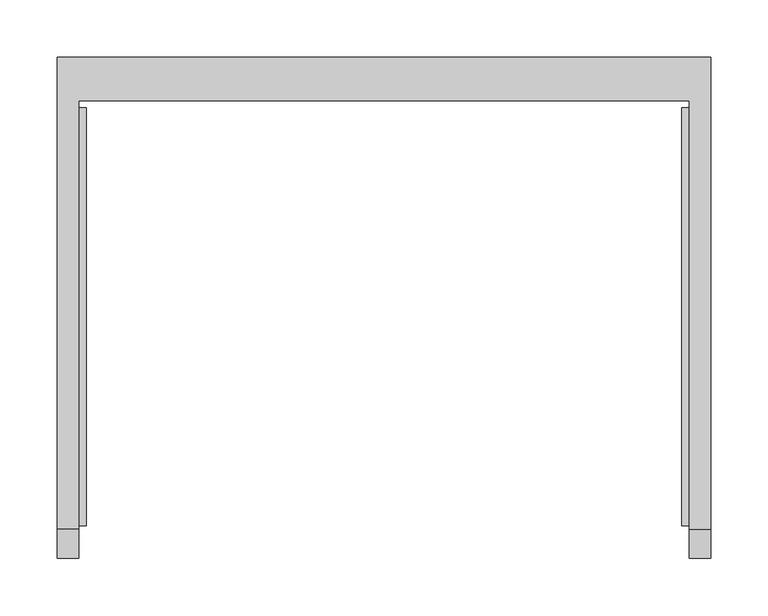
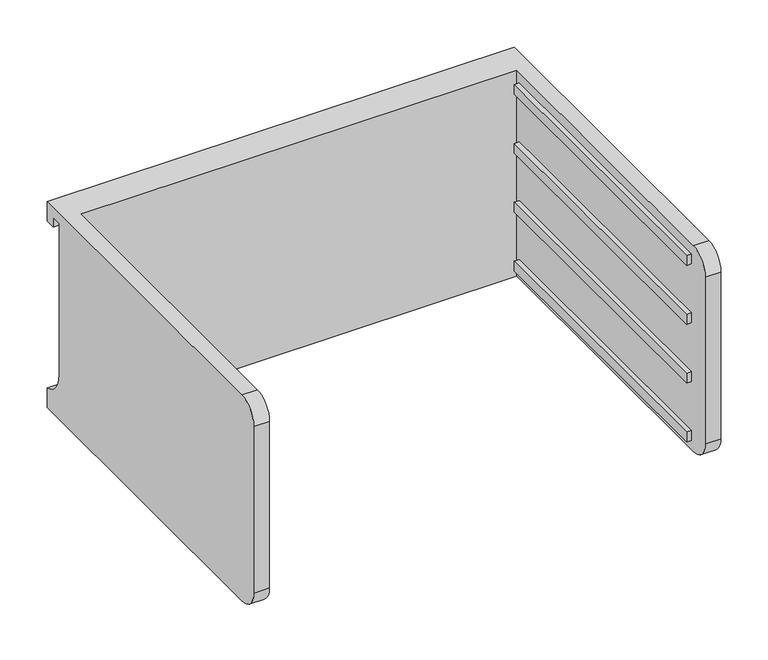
"""IFC4 building model written with IfcOpenShell, lengths in millimetres: furniture geometry."""

from ifc_helpers import new_model, si_unit, frame, origin, place, context, project, spatial, polyline, circle_curve, outline, extrude, source, transform, mapped, element, save
from ifc_brep_helpers import plane_surface, cylinder_surface, revolved_surface, advanced_brep


def furniture_56be9a9d(model_context):
    return source(origin(), model_context, "Body", "SolidModel", [
        advanced_brep(
        [(-171.7622951, -331.6523397, 814.4002), (-171.7622951, -357.0523397, 789.0002), (-171.7622951, -357.0523397, 573.1002), (-171.7622951, -331.6523397, 547.7002), (-171.7622951, 43.0421197, 547.7002), (-171.7622951, 43.0421197, 814.4002), (-190.8122951, -331.6523397, 547.7002), (-190.8122951, -357.0523397, 573.1002), (-190.8122951, -357.0523397, 789.0002), (-190.8122951, -331.6523397, 814.4002), (-190.8122951, 81.0976603, 814.4002), (-190.8122951, 81.0976603, 789.0002), (-190.8122951, 68.4421197, 789.0002), (-190.8122951, 68.4421197, 801.7002), (-190.8122951, 55.7421197, 801.7002), (-190.8122951, 55.7421197, 605.64522), (-190.8122951, 81.0976603, 573.1002), (-190.8122951, 81.0976603, 547.7002), (380.6877049, 81.0976603, 547.7002), (380.6877049, -331.6523397, 547.7002), (361.6377049, -331.6523397, 547.7002), (361.6377049, 43.0421197, 547.7002), (361.6377049, 43.0421197, 814.4002), (361.6377049, -331.6523397, 814.4002), (380.6877049, -331.6523397, 814.4002), (380.6877049, 81.0976603, 814.4002), (380.6877049, 81.0976603, 573.1002), (380.6877049, 55.7421197, 605.64522), (380.6877049, 55.7421197, 801.7002), (380.6877049, 68.4421197, 801.7002), (380.6877049, 68.4421197, 789.0002), (380.6877049, 81.0976603, 789.0002), (380.6877049, -357.0523397, 789.0002), (380.6877049, -357.0523397, 573.1002), (361.6377049, -357.0523397, 573.1002), (361.6377049, -357.0523397, 789.0002)],
        [
            (0, 1, circle_curve(frame((-171.7622951, -331.6523397, 789.0002), z_axis=(1.0, 0.0, 0.0), x_axis=(0.0, 0.0, 1.0)), 25.4)),
            (1, 2),
            (2, 3, circle_curve(frame((-171.7622951, -331.6523397, 573.1002), z_axis=(1.0, 0.0, 0.0), x_axis=(0.0, 0.0, 1.0)), 25.4)),
            (3, 4),
            (4, 5),
            (5, 0),
            (6, 7, circle_curve(frame((-190.8122951, -331.6523397, 573.1002), z_axis=(-1.0, 0.0, 0.0), x_axis=(0.0, 0.0, 1.0)), 25.4)),
            (7, 8),
            (8, 9, circle_curve(frame((-190.8122951, -331.6523397, 789.0002), z_axis=(-1.0, 0.0, 0.0), x_axis=(0.0, 0.0, 1.0)), 25.4)),
            (9, 10),
            (10, 11),
            (11, 12),
            (12, 13),
            (13, 14),
            (14, 15),
            (15, 16, circle_curve(frame((-190.8122951, 89.3064162, 605.64522), z_axis=(1.0, 0.0, 0.0), x_axis=(0.0, 0.0, 1.0)), 33.5642965)),
            (16, 17),
            (17, 6),
            (0, 9),
            (8, 1),
            (7, 2),
            (6, 3),
            (17, 18),
            (18, 19),
            (19, 20),
            (20, 21),
            (21, 4),
            (5, 22),
            (22, 23),
            (23, 24),
            (24, 25),
            (25, 10),
            (18, 26),
            (26, 27, circle_curve(frame((380.6877049, 89.3064162, 605.64522), z_axis=(-1.0, 0.0, 0.0), x_axis=(0.0, 0.0, 1.0)), 33.5642965)),
            (27, 28),
            (28, 29),
            (29, 30),
            (30, 31),
            (31, 25),
            (24, 32, circle_curve(frame((380.6877049, -331.6523397, 789.0002), z_axis=(1.0, 0.0, 0.0), x_axis=(0.0, 0.0, 1.0)), 25.4)),
            (32, 33),
            (33, 19, circle_curve(frame((380.6877049, -331.6523397, 573.1002), z_axis=(1.0, 0.0, 0.0), x_axis=(0.0, 0.0, 1.0)), 25.4)),
            (16, 26),
            (15, 27),
            (14, 28),
            (13, 29),
            (12, 30),
            (11, 31),
            (21, 22),
            (20, 34, circle_curve(frame((361.6377049, -331.6523397, 573.1002), z_axis=(-1.0, 0.0, 0.0), x_axis=(0.0, 0.0, 1.0)), 25.4)),
            (34, 35),
            (35, 23, circle_curve(frame((361.6377049, -331.6523397, 789.0002), z_axis=(-1.0, 0.0, 0.0), x_axis=(0.0, 0.0, 1.0)), 25.4)),
            (35, 32),
            (34, 33),
        ],
        [
            plane_surface(frame((-171.7622951, -331.6523397, 814.4002), z_axis=(1.0, 0.0, 0.0), x_axis=(0.0, -1.0, 0.0))),
            plane_surface(frame((-190.8122951, -331.6523397, 814.4002), z_axis=(-1.0, 0.0, 0.0), x_axis=(0.0, 1.0, 0.0))),
            cylinder_surface(frame((-190.8122951, -331.6523397, 789.0002), z_axis=(1.0, 0.0, 0.0), x_axis=(0.0, 0.0, 1.0)), 25.4),
            plane_surface(frame((-171.7622951, -357.0523397, 789.0002), z_axis=(0.0, -1.0, 0.0), x_axis=(-1.0, 0.0, 0.0))),
            cylinder_surface(frame((-190.8122951, -331.6523397, 573.1002), z_axis=(1.0, 0.0, 0.0), x_axis=(0.0, 0.0, 1.0)), 25.4),
            plane_surface(frame((-171.7622951, -331.6523397, 547.7002), z_axis=(0.0, 0.0, -1.0), x_axis=(-1.0, 0.0, 0.0))),
            plane_surface(frame((-171.7622951, 43.0421197, 814.4002), z_axis=(0.0, 0.0, 1.0), x_axis=(-1.0, 0.0, 0.0))),
            plane_surface(frame((380.6877049, 81.0976603, 573.1002), z_axis=(1.0, 0.0, 0.0), x_axis=(0.0, 0.0, 1.0))),
            plane_surface(frame((380.6877049, 81.0976603, 547.7002), z_axis=(0.0, 1.0, 0.0), x_axis=(-1.0, 0.0, 0.0))),
            revolved_surface(polyline([(-190.8122951, 89.3064162, 639.2095165), (380.68770489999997, 89.3064162, 639.2095165)]), (-190.8122951, 89.3064162, 605.64522), (-1.0, 0.0, 0.0)),
            plane_surface(frame((380.6877049, 55.7421197, 605.64522), z_axis=(0.0, 1.0, 0.0), x_axis=(-1.0, 0.0, 0.0))),
            plane_surface(frame((380.6877049, 55.7421197, 801.7002), z_axis=(0.0, 0.0, -1.0), x_axis=(-1.0, 0.0, 0.0))),
            plane_surface(frame((380.6877049, 68.4421197, 801.7002), z_axis=(0.0, -1.0, 0.0), x_axis=(-1.0, 0.0, 0.0))),
            plane_surface(frame((380.6877049, 68.4421197, 789.0002), z_axis=(0.0, 0.0, -1.0), x_axis=(-1.0, 0.0, 0.0))),
            plane_surface(frame((380.6877049, 81.0976603, 789.0002), z_axis=(0.0, 1.0, 0.0), x_axis=(-1.0, 0.0, 0.0))),
            plane_surface(frame((380.6877049, 43.0421197, 814.4002), z_axis=(0.0, -1.0, 0.0), x_axis=(-1.0, 0.0, 0.0))),
            plane_surface(frame((361.6377049, -331.6523397, 814.4002), z_axis=(-1.0, 0.0, 0.0), x_axis=(0.0, 1.0, 0.0))),
            cylinder_surface(frame((361.6377049, -331.6523397, 789.0002), z_axis=(1.0, 0.0, 0.0), x_axis=(0.0, 0.0, 1.0)), 25.4),
            plane_surface(frame((380.6877049, -357.0523397, 789.0002), z_axis=(0.0, -1.0, 0.0), x_axis=(-1.0, 0.0, 0.0))),
            cylinder_surface(frame((361.6377049, -331.6523397, 573.1002), z_axis=(1.0, 0.0, 0.0), x_axis=(0.0, 0.0, 1.0)), 25.4),
        ],
        [
            (0, [[1, 2, 3, 4, 5, 6]]),
            (1, [[7, 8, 9, 10, 11, 12, 13, 14, 15, 16, 17, 18]]),
            (2, [[-1, 19, -9, 20]]),
            (3, [[-2, -20, -8, 21]]),
            (4, [[-3, -21, -7, 22]]),
            (5, [[-4, -22, -18, 23, 24, 25, 26, 27]]),
            (6, [[-6, 28, 29, 30, 31, 32, -10, -19]]),
            (7, [[-24, 33, 34, 35, 36, 37, 38, 39, -31, 40, 41, 42]]),
            (8, [[-33, -23, -17, 43]]),
            (9, [[-34, -43, -16, 44]]),
            (10, [[-35, -44, -15, 45]]),
            (11, [[-36, -45, -14, 46]]),
            (12, [[-37, -46, -13, 47]]),
            (13, [[-38, -47, -12, 48]]),
            (14, [[-39, -48, -11, -32]]),
            (15, [[-5, -27, 49, -28]]),
            (16, [[-29, -49, -26, 50, 51, 52]]),
            (17, [[-40, -30, -52, 53]]),
            (18, [[-41, -53, -51, 54]]),
            (19, [[-42, -54, -50, -25]]),
        ],
    ),
        extrude(outline(polyline([(355.2877049, -328.4773397), (355.2877049, 36.6921197), (361.6377049, 36.6921197), (361.6377049, -328.4773397), (355.2877049, -328.4773397)])), frame((0.0, 0.0, 636.6002), z_axis=(0.0, 0.0, 1.0), x_axis=(1.0, 0.0, 0.0)), (0.0, 0.0, 1.0), 12.7),
        extrude(outline(polyline([(355.2877049, -328.4773397), (355.2877049, 36.6921197), (361.6377049, 36.6921197), (361.6377049, -328.4773397), (355.2877049, -328.4773397)])), frame((0.0, 0.0, 712.8002), z_axis=(0.0, 0.0, 1.0), x_axis=(1.0, 0.0, 0.0)), (0.0, 0.0, 1.0), 12.7),
        extrude(outline(polyline([(355.2877049, -328.4773397), (355.2877049, 36.6921197), (361.6377049, 36.6921197), (361.6377049, -328.4773397), (355.2877049, -328.4773397)])), frame((0.0, 0.0, 789.0002), z_axis=(0.0, 0.0, 1.0), x_axis=(1.0, 0.0, 0.0)), (0.0, 0.0, 1.0), 12.7),
        extrude(outline(polyline([(355.2877049, -328.4773397), (355.2877049, 36.6921197), (361.6377049, 36.6921197), (361.6377049, -328.4773397), (355.2877049, -328.4773397)])), frame((0.0, 0.0, 560.4002), z_axis=(0.0, 0.0, 1.0), x_axis=(1.0, 0.0, 0.0)), (0.0, 0.0, 1.0), 12.7),
        extrude(outline(polyline([(-171.7622951, -328.4773397), (-171.7622951, 36.6921197), (-165.4122951, 36.6921197), (-165.4122951, -328.4773397), (-171.7622951, -328.4773397)])), frame((0.0, 0.0, 636.6002), z_axis=(0.0, 0.0, 1.0), x_axis=(1.0, 0.0, 0.0)), (0.0, 0.0, 1.0), 12.7),
        extrude(outline(polyline([(-171.7622951, -328.4773397), (-171.7622951, 36.6921197), (-165.4122951, 36.6921197), (-165.4122951, -328.4773397), (-171.7622951, -328.4773397)])), frame((0.0, 0.0, 712.8002), z_axis=(0.0, 0.0, 1.0), x_axis=(1.0, 0.0, 0.0)), (0.0, 0.0, 1.0), 12.7),
        extrude(outline(polyline([(-171.7622951, -328.4773397), (-171.7622951, 36.6921197), (-165.4122951, 36.6921197), (-165.4122951, -328.4773397), (-171.7622951, -328.4773397)])), frame((0.0, 0.0, 789.0002), z_axis=(0.0, 0.0, 1.0), x_axis=(1.0, 0.0, 0.0)), (0.0, 0.0, 1.0), 12.7),
        extrude(outline(polyline([(-171.7622951, -328.4773397), (-171.7622951, 36.6921197), (-165.4122951, 36.6921197), (-165.4122951, -328.4773397), (-171.7622951, -328.4773397)])), frame((0.0, 0.0, 560.4002), z_axis=(0.0, 0.0, 1.0), x_axis=(1.0, 0.0, 0.0)), (0.0, 0.0, 1.0), 12.7),
    ])


if __name__ == "__main__":
    model = new_model("IFC4")
    model_context = context("Model", 3, world=origin())
    ifc_project = project(units=[si_unit("LENGTHUNIT", "METRE", prefix="MILLI")], contexts=[model_context])
    site = spatial("IfcSite", under=ifc_project)
    building = spatial("IfcBuilding", under=site)
    placement = place(None, origin())
    furniture_shape = furniture_56be9a9d(model_context)
    element("IfcFurniture", 1, ObjectType="HermanMiller_CoStruc_CO205_CFrame : 10\"H x 17\"D x 22\"W", at=placement, inside=building, context=model_context, shape_type="MappedRepresentation", body=[
        mapped(furniture_shape, transform((0.0, 0.0, 0.0), x_axis=(1.0, 0.0, 0.0), y_axis=(0.0, 1.0, 0.0), z_axis=(0.0, 0.0, 1.0))),
    ])
    save(model, "model.ifc")
